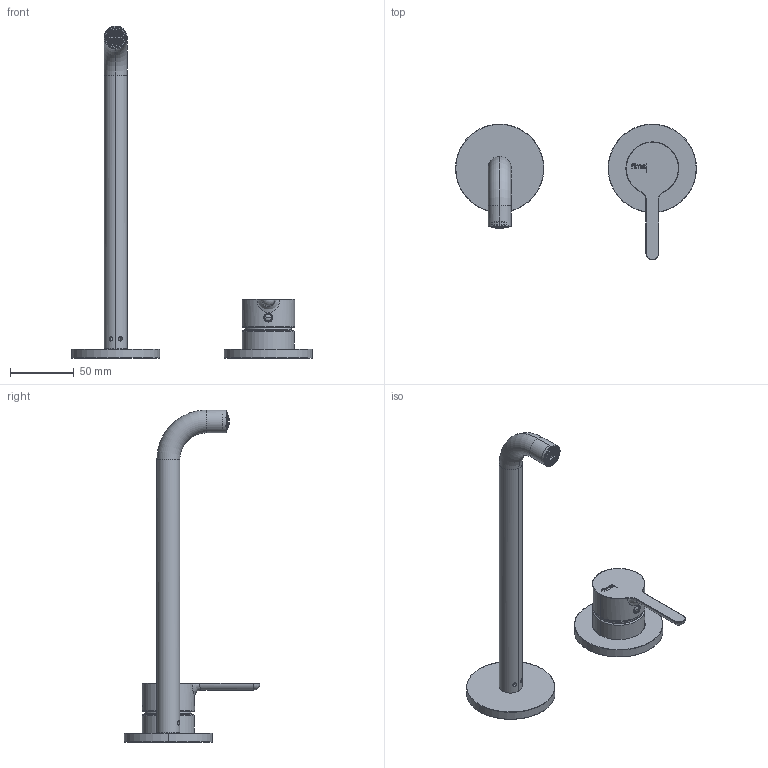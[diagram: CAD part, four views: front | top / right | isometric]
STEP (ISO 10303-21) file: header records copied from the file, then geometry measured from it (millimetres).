
FILE_DESCRIPTION((''),'2;1');
FILE_NAME('3DF_F3121WZX9','2023-12-22T14:30:39',('ivanv'),(''),'CREO PARAMETRIC BY PTC INC, 2021184','CREO PARAMETRIC BY PTC INC, 2021184','');
FILE_SCHEMA(('CONFIG_CONTROL_DESIGN'));
Products named in the file (1): 3DF_F3121WZX9
Bounding box: 189.5 x 106.75 x 261 mm (x, y, z)
Volume: 79519.2 mm3; surface area: 68080.9 mm2
Topology: 6 solids, 6 shells, 3789 faces, 10776 edges, 7133 vertices
Faces by surface type: plane 2317, torus 472, extrusion 400, cylinder 326, bspline 188, cone 59, sphere 27
Entity records: 155463 total; most frequent: CARTESIAN_POINT 63928, ORIENTED_EDGE 21522, DIRECTION 14919, EDGE_CURVE 10761, VERTEX_POINT 7133, VECTOR 5121, AXIS2_PLACEMENT_3D 4899, B_SPLINE_CURVE_WITH_KNOTS 4742
